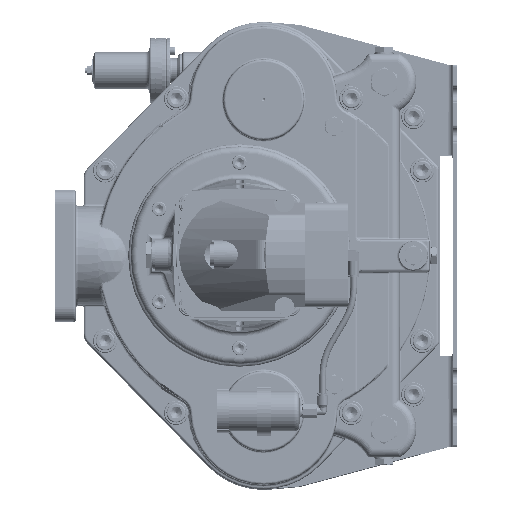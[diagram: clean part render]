
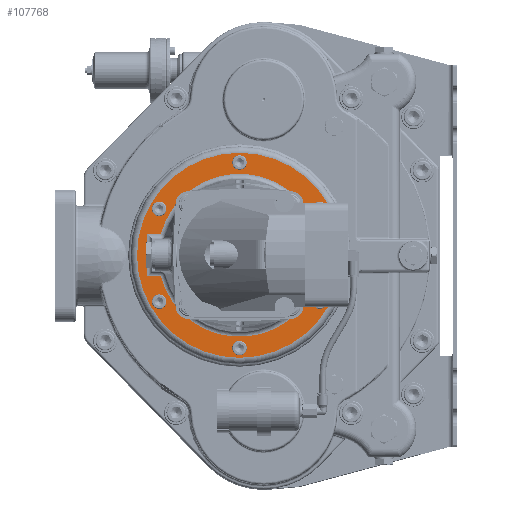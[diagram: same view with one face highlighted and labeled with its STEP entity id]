
A CAD part, top view. The second image highlights one B-rep face of the part: STEP entity #107768.
In plain terms, the highlighted planar face has unit normal (0, 0, 1) as drawn and (0, 1, 0) by its records, which use the part's own axes.
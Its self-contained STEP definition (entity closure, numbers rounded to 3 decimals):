
#4291=FACE_BOUND('',#18226,.T.);
#4292=FACE_BOUND('',#18227,.T.);
#4293=FACE_BOUND('',#18228,.T.);
#4294=FACE_BOUND('',#18229,.T.);
#4295=FACE_BOUND('',#18230,.T.);
#4296=FACE_BOUND('',#18231,.T.);
#4297=FACE_BOUND('',#18232,.T.);
#6261=PLANE('',#118075);
#11534=FACE_OUTER_BOUND('',#18225,.T.);
#18225=EDGE_LOOP('',(#88816));
#18226=EDGE_LOOP('',(#88817));
#18227=EDGE_LOOP('',(#88818));
#18228=EDGE_LOOP('',(#88819));
#18229=EDGE_LOOP('',(#88820));
#18230=EDGE_LOOP('',(#88821));
#18231=EDGE_LOOP('',(#88822));
#18232=EDGE_LOOP('',(#88823,#88824,#88825,#88826));
#26077=CIRCLE('',#118018,6.5);
#26079=CIRCLE('',#118021,6.5);
#26081=CIRCLE('',#118024,6.5);
#26083=CIRCLE('',#118027,6.5);
#26085=CIRCLE('',#118030,6.5);
#26087=CIRCLE('',#118033,6.5);
#26114=CIRCLE('',#118069,127.);
#26119=CIRCLE('',#118076,101.);
#32309=LINE('',#191921,#39223);
#32310=LINE('',#191923,#39224);
#32311=LINE('',#191925,#39225);
#39223=VECTOR('',#141341,10.);
#39224=VECTOR('',#141342,10.);
#39225=VECTOR('',#141343,10.);
#48064=VERTEX_POINT('',#190904);
#48066=VERTEX_POINT('',#190910);
#48068=VERTEX_POINT('',#190916);
#48070=VERTEX_POINT('',#190922);
#48072=VERTEX_POINT('',#190928);
#48074=VERTEX_POINT('',#190934);
#48131=VERTEX_POINT('',#191907);
#48135=VERTEX_POINT('',#191919);
#48136=VERTEX_POINT('',#191920);
#48137=VERTEX_POINT('',#191922);
#48138=VERTEX_POINT('',#191924);
#62012=EDGE_CURVE('',#48064,#48064,#26077,.T.);
#62015=EDGE_CURVE('',#48066,#48066,#26079,.T.);
#62018=EDGE_CURVE('',#48068,#48068,#26081,.T.);
#62021=EDGE_CURVE('',#48070,#48070,#26083,.T.);
#62024=EDGE_CURVE('',#48072,#48072,#26085,.T.);
#62027=EDGE_CURVE('',#48074,#48074,#26087,.T.);
#62098=EDGE_CURVE('',#48131,#48131,#26114,.T.);
#62104=EDGE_CURVE('',#48135,#48136,#32309,.T.);
#62105=EDGE_CURVE('',#48137,#48135,#32310,.T.);
#62106=EDGE_CURVE('',#48138,#48137,#32311,.T.);
#62107=EDGE_CURVE('',#48136,#48138,#26119,.T.);
#88816=ORIENTED_EDGE('',*,*,#62098,.F.);
#88817=ORIENTED_EDGE('',*,*,#62012,.T.);
#88818=ORIENTED_EDGE('',*,*,#62015,.T.);
#88819=ORIENTED_EDGE('',*,*,#62018,.T.);
#88820=ORIENTED_EDGE('',*,*,#62021,.T.);
#88821=ORIENTED_EDGE('',*,*,#62024,.T.);
#88822=ORIENTED_EDGE('',*,*,#62027,.T.);
#88823=ORIENTED_EDGE('',*,*,#62104,.F.);
#88824=ORIENTED_EDGE('',*,*,#62105,.F.);
#88825=ORIENTED_EDGE('',*,*,#62106,.F.);
#88826=ORIENTED_EDGE('',*,*,#62107,.F.);
#107768=ADVANCED_FACE('',(#11534,#4291,#4292,#4293,#4294,#4295,#4296,#4297),
#6261,.F.);
#118018=AXIS2_PLACEMENT_3D('',#190906,#141205,#141206);
#118021=AXIS2_PLACEMENT_3D('',#190912,#141212,#141213);
#118024=AXIS2_PLACEMENT_3D('',#190918,#141219,#141220);
#118027=AXIS2_PLACEMENT_3D('',#190924,#141226,#141227);
#118030=AXIS2_PLACEMENT_3D('',#190930,#141233,#141234);
#118033=AXIS2_PLACEMENT_3D('',#190936,#141240,#141241);
#118069=AXIS2_PLACEMENT_3D('',#191908,#141326,#141327);
#118075=AXIS2_PLACEMENT_3D('',#191918,#141339,#141340);
#118076=AXIS2_PLACEMENT_3D('',#191926,#141344,#141345);
#141205=DIRECTION('center_axis',(0.,-1.,0.));
#141206=DIRECTION('ref_axis',(1.,0.,0.));
#141212=DIRECTION('center_axis',(0.,-1.,0.));
#141213=DIRECTION('ref_axis',(1.,0.,0.));
#141219=DIRECTION('center_axis',(0.,-1.,0.));
#141220=DIRECTION('ref_axis',(1.,0.,0.));
#141226=DIRECTION('center_axis',(0.,-1.,0.));
#141227=DIRECTION('ref_axis',(1.,0.,0.));
#141233=DIRECTION('center_axis',(0.,-1.,0.));
#141234=DIRECTION('ref_axis',(1.,0.,0.));
#141240=DIRECTION('center_axis',(0.,-1.,0.));
#141241=DIRECTION('ref_axis',(1.,0.,0.));
#141326=DIRECTION('center_axis',(0.,-1.,0.));
#141327=DIRECTION('ref_axis',(-1.,0.,0.));
#141339=DIRECTION('center_axis',(0.,-1.,0.));
#141340=DIRECTION('ref_axis',(0.,0.,-1.));
#141341=DIRECTION('',(0.,0.,1.));
#141342=DIRECTION('',(-1.,0.,0.));
#141343=DIRECTION('',(0.,0.,-1.));
#141344=DIRECTION('center_axis',(0.,1.,0.));
#141345=DIRECTION('ref_axis',(0.,0.,1.));
#190904=CARTESIAN_POINT('',(108.5,20.,0.));
#190906=CARTESIAN_POINT('Origin',(115.,20.,0.));
#190910=CARTESIAN_POINT('',(-64.,20.,99.593));
#190912=CARTESIAN_POINT('Origin',(-57.5,20.,99.593));
#190916=CARTESIAN_POINT('',(51.,20.,-99.593));
#190918=CARTESIAN_POINT('Origin',(57.5,20.,-99.593));
#190922=CARTESIAN_POINT('',(-64.,20.,-99.593));
#190924=CARTESIAN_POINT('Origin',(-57.5,20.,-99.593));
#190928=CARTESIAN_POINT('',(51.,20.,99.593));
#190930=CARTESIAN_POINT('Origin',(57.5,20.,99.593));
#190934=CARTESIAN_POINT('',(-121.5,20.,0.));
#190936=CARTESIAN_POINT('Origin',(-115.,20.,0.));
#191907=CARTESIAN_POINT('',(0.,20.,-127.));
#191908=CARTESIAN_POINT('Origin',(0.,20.,0.));
#191918=CARTESIAN_POINT('Origin',(0.,20.,0.));
#191919=CARTESIAN_POINT('',(-26.,20.,-114.));
#191920=CARTESIAN_POINT('',(-26.,20.,-97.596));
#191921=CARTESIAN_POINT('',(-26.,20.,-54.));
#191922=CARTESIAN_POINT('',(26.,20.,-114.));
#191923=CARTESIAN_POINT('',(0.,20.,-114.));
#191924=CARTESIAN_POINT('',(26.,20.,-97.596));
#191925=CARTESIAN_POINT('',(26.,20.,-54.));
#191926=CARTESIAN_POINT('Origin',(0.,20.,0.));
